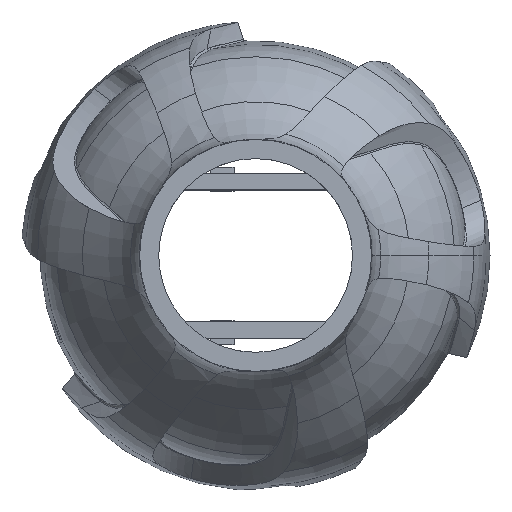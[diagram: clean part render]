
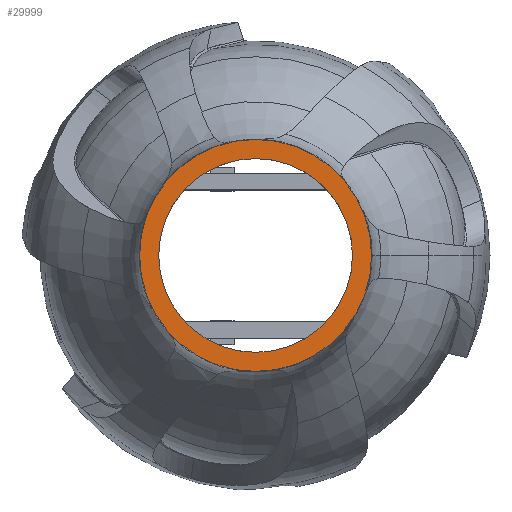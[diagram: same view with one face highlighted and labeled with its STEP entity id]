
A CAD part, top view. The second image highlights one B-rep face of the part: STEP entity #29999.
In plain terms, the highlighted planar face has unit normal (0, 0, 1).
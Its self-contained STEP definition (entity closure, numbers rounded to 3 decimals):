
#16612 = VERTEX_POINT('',#16613);
#16613 = CARTESIAN_POINT('',(24.25,0.,172.));
#16620 = EDGE_CURVE('',#16612,#16612,#16621,.T.);
#16621 = CIRCLE('',#16622,24.25);
#16622 = AXIS2_PLACEMENT_3D('',#16623,#16624,#16625);
#16623 = CARTESIAN_POINT('',(0.,0.,172.));
#16624 = DIRECTION('',(0.,0.,1.));
#16625 = DIRECTION('',(1.,0.,-0.));
#29999 = ADVANCED_FACE('',(#30000,#30003),#30014,.T.);
#30000 = FACE_BOUND('',#30001,.T.);
#30001 = EDGE_LOOP('',(#30002));
#30002 = ORIENTED_EDGE('',*,*,#16620,.T.);
#30003 = FACE_BOUND('',#30004,.T.);
#30004 = EDGE_LOOP('',(#30005));
#30005 = ORIENTED_EDGE('',*,*,#30006,.F.);
#30006 = EDGE_CURVE('',#30007,#30007,#30009,.T.);
#30007 = VERTEX_POINT('',#30008);
#30008 = CARTESIAN_POINT('',(20.25,0.,172.));
#30009 = CIRCLE('',#30010,20.25);
#30010 = AXIS2_PLACEMENT_3D('',#30011,#30012,#30013);
#30011 = CARTESIAN_POINT('',(0.,0.,172.));
#30012 = DIRECTION('',(0.,0.,1.));
#30013 = DIRECTION('',(1.,0.,-0.));
#30014 = PLANE('',#30015);
#30015 = AXIS2_PLACEMENT_3D('',#30016,#30017,#30018);
#30016 = CARTESIAN_POINT('',(0.,0.,172.));
#30017 = DIRECTION('',(0.,0.,1.));
#30018 = DIRECTION('',(1.,0.,-0.));
